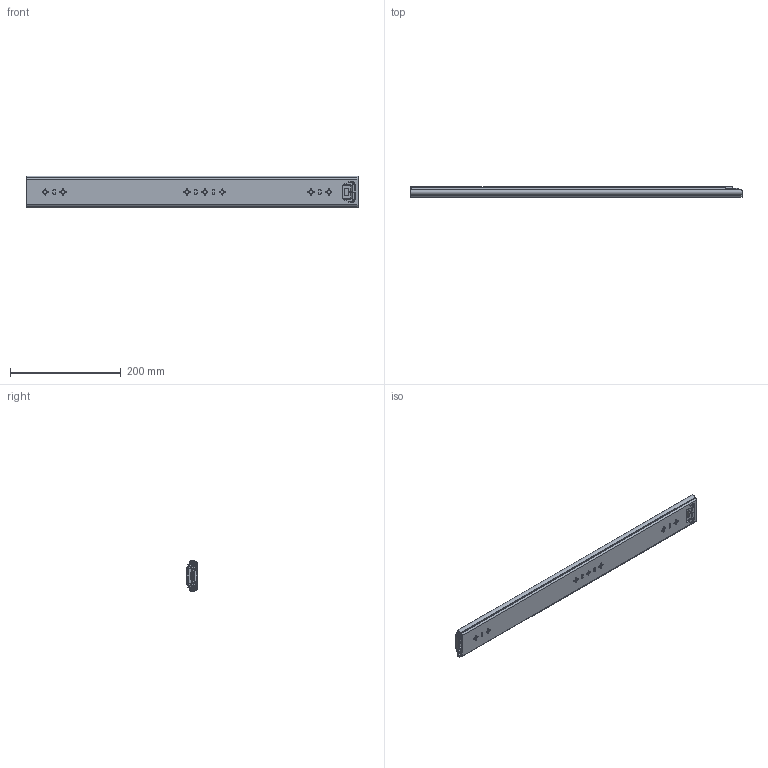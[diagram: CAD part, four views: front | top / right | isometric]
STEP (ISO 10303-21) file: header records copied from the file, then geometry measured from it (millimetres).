
FILE_DESCRIPTION((''),'2;1');
FILE_NAME('1057-02-24_ASM','2023-12-23T',('jishu015'),(''),'PRO/ENGINEER BY PARAMETRIC TECHNOLOGY CORPORATION, 2010280','PRO/ENGINEER BY PARAMETRIC TECHNOLOGY CORPORATION, 2010280','');
FILE_SCHEMA(('CONFIG_CONTROL_DESIGN'));
Products named in the file (14): KP-57-01WEIKE-18____; 1057WEIJIAO____; 1057DAZHUJIA-14GE____; 1057-5-6GANZHU____; 1057DAZHUJIA-14GE_____ASM; KP-57-01ZHONGGUI-18____; 57-ZHONGGUIDINWEIJIAN____; KP-57-01ZHONGGUI-18_____ASM; 1057XIAOZHUJIA____; 1057XIAOZHUJIA-14GE_____ASM; KP-57-01NEIGUI-18____; 45TIEBACHA____; KP-57-01NEIGUI-18_____ASM; 1057-02-24_ASM
Assembly tree (96 placements, depth 3):
  1057-02-24_ASM
    KP-57-01WEIKE-18____
    1057WEIJIAO____
    1057DAZHUJIA-14GE_____ASM
      1057DAZHUJIA-14GE____
      1057-5-6GANZHU____  x40
    KP-57-01ZHONGGUI-18_____ASM
      KP-57-01ZHONGGUI-18____
      57-ZHONGGUIDINWEIJIAN____
    1057XIAOZHUJIA-14GE_____ASM
      1057XIAOZHUJIA____
      1057-5-6GANZHU____  x44
    KP-57-01NEIGUI-18_____ASM
      KP-57-01NEIGUI-18____
      45TIEBACHA____
Bounding box: 600 x 19 x 57.67 mm (x, y, z)
Volume: 262001.8 mm3; surface area: 305176.2 mm2
Topology: 92 solids, 94 shells, 2421 faces, 6768 edges, 4188 vertices
Faces by surface type: plane 1143, cylinder 982, sphere 176, cone 66, bspline 48, torus 6
Entity records: 75893 total; most frequent: CARTESIAN_POINT 15509, DIRECTION 12820, ORIENTED_EDGE 12512, EDGE_CURVE 6258, AXIS2_PLACEMENT_3D 4391, VECTOR 4038, LINE 4038, VERTEX_POINT 4022
